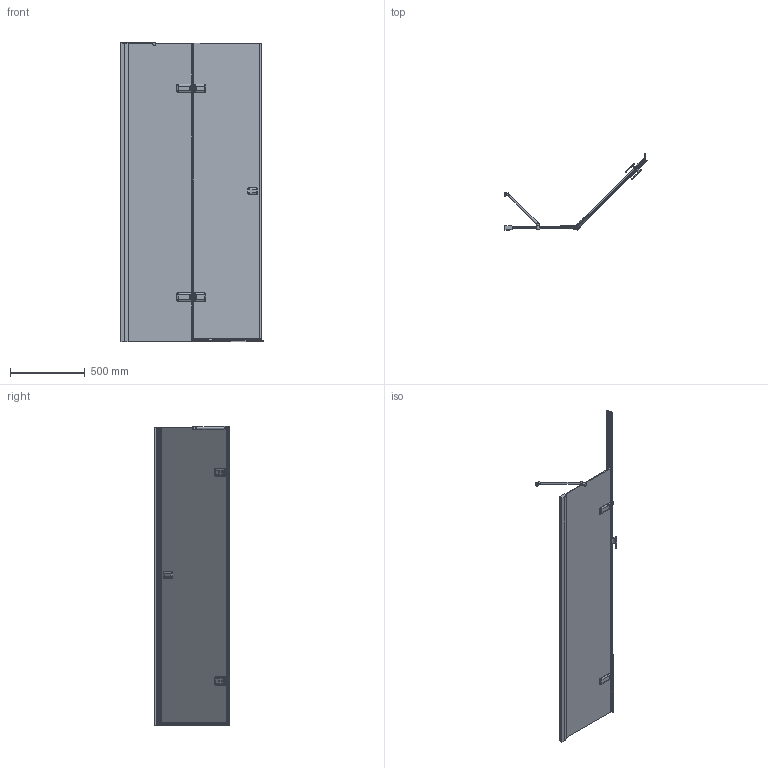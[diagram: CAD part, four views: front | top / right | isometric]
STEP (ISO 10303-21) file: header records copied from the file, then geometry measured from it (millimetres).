
FILE_DESCRIPTION(/* description */ (''),/* implementation_level */ '2;1');
FILE_NAME(/* name */ 'E:\Работа\Сергей\Душевые кабинки\! Работа\TREND DOOR GK-862AGP135ONE-01\TREND DOOR GK-862AGP135ONE-01 левая модель\TREND DOOR GK-862AGP135ONE-01 ЛЕВАЯ-3D.stp',/* time_stamp */ '2017-06-16T20:26:40+03:00',/* author */ ('PC'),/* organization */ (''),/* preprocessor_version */ 'ST-DEVELOPER v15.2',/* originating_system */ 'Autodesk Inventor 2014',/* authorisation */ '');
FILE_SCHEMA (('AUTOMOTIVE_DESIGN { 1 0 10303 214 3 1 1 }'));
Products named in the file (1): TREND DOOR GK-862AGP135ONE-01 \X2\041B041504120410042F
\X0\-3D
Bounding box: 954.48 x 506.84 x 2009.49 mm (x, y, z)
Volume: 18267860.3 mm3; surface area: 5128825.2 mm2
Topology: 5 solids, 5 shells, 1248 faces, 3433 edges, 2156 vertices
Faces by surface type: plane 732, cylinder 333, bspline 136, torus 21, cone 18, sphere 8
Full cylindrical faces by diameter (mm): 6 x2, 9 x8, 13 x2, 15 x1, 20 x2, 26 x1
Entity records: 56485 total; most frequent: CARTESIAN_POINT 24151, ORIENTED_EDGE 6714, DIRECTION 6248, EDGE_CURVE 3353, VERTEX_POINT 2144, AXIS2_PLACEMENT_3D 2091, LINE 2066, VECTOR 2066
